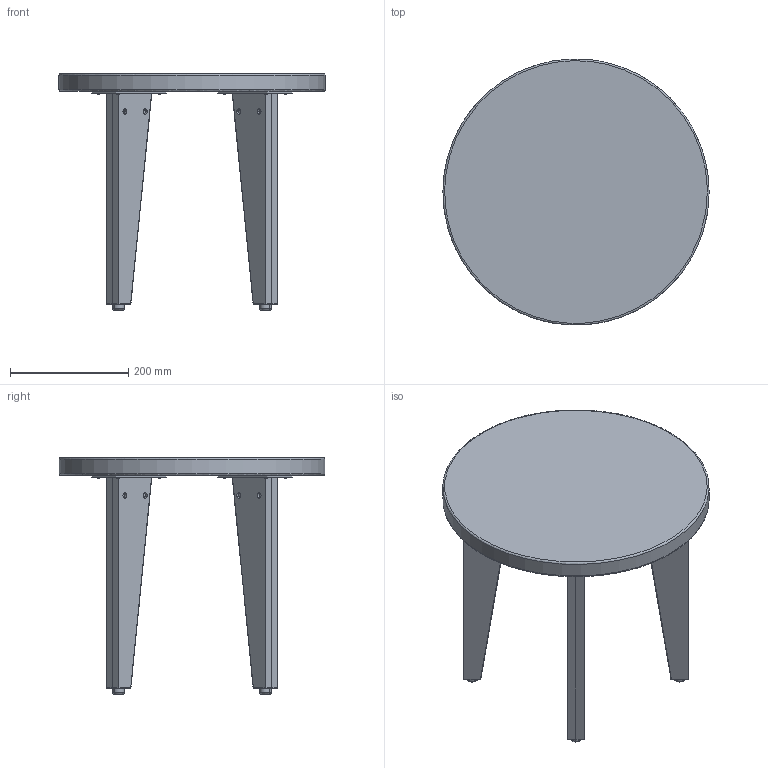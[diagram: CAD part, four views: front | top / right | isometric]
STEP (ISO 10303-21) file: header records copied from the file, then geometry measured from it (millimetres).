
FILE_DESCRIPTION(/* description */ (''),/* implementation_level */ '2;1');
FILE_NAME(/* name */ 'kinoshita_baobabland_kg-450Φ',/* time_stamp */ '2025-04-18T19:39:58+09:00',/* author */ (''),/* organization */ (''),/* preprocessor_version */ 'ST-DEVELOPER v16.5',/* originating_system */ '',/* authorisation */ '');
FILE_SCHEMA (('AUTOMOTIVE_DESIGN'));
Length unit declared in the file: millimetre
Products named in the file (1): Document
Bounding box: 450 x 449.46 x 400 mm (x, y, z)
Volume: 7273521.4 mm3; surface area: 658499.7 mm2
Topology: 5 solids, 5 shells, 317 faces, 671 edges, 396 vertices
Faces by surface type: bspline 219, plane 98
Entity records: 12115 total; most frequent: CARTESIAN_POINT 8028, ORIENTED_EDGE 1334, EDGE_CURVE 667, VERTEX_POINT 396, EDGE_LOOP 353, ADVANCED_FACE 317, FACE_OUTER_BOUND 317, B_SPLINE_CURVE_WITH_KNOTS 304
